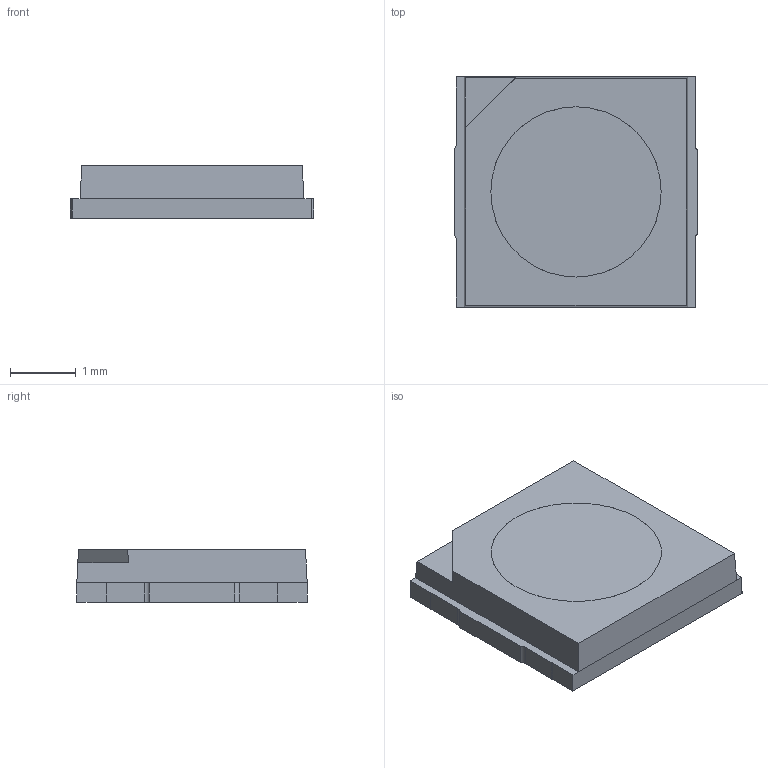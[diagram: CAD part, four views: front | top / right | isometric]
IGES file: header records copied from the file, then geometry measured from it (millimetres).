
Start section: 3D InterOp IGES (Version 20 0 3), Spatial Corp. Copyright (c) 1999-2007.
Global section: file name: MA85-TZHG_260919.igs; native system: Spatial Corp.; preprocessor: 3D InterOp ACIS/IGES; author: Noname; organization: Noname; date: 20190926.081651; units: millimetre
Bounding box: 3.7 x 3.5 x 0.8 mm (x, y, z)
Surface area: 36.4 mm2 (no closed solid volume)
Topology: 0 solids, 0 shells, 61 faces, 334 edges, 334 vertices
Faces by surface type: extrusion 47, revolution 14
